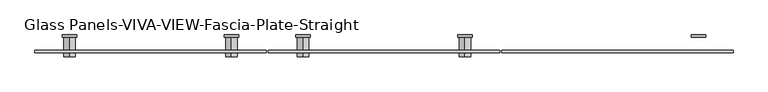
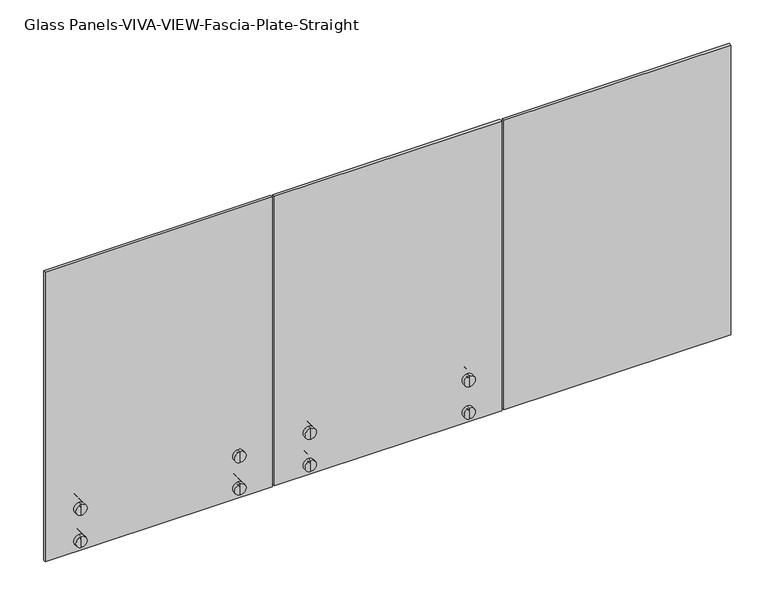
"""IFC4 building model written with IfcOpenShell, lengths in millimetres: railing geometry, Glass Panels-VIVA-VIEW-Fascia-Plate-Straight."""

from ifc_helpers import new_model, si_unit, point, frame, frame_2d, origin, place, context, project, spatial, polyline, circle_curve, trimmed, segment, composite_curve, outline, extrude, source, transform, mapped, element, save
from ifc_brep_helpers import plane_surface, cylinder_surface, advanced_brep


def glass_panels_viva_view_fascia_plate_straight_9ccb37f8(model_context):
    return source(origin(), model_context, "Body", "SolidModel", [
        extrude(outline(composite_curve([segment(polyline([(2971.8, 40645.9596899), (2819.4, 40645.9596899)]), True, "CONTINUOUS"), segment(trimmed(circle_curve(frame_2d((2819.4, 40677.7096899)), 31.75), [point((2819.4, 40645.9596899))], [point((2819.4, 40709.4596899))], False, "CARTESIAN"), True, "CONTINUOUS"), segment(polyline([(2819.4, 40709.4596899), (2971.8, 40709.4596899)]), True, "CONTINUOUS"), segment(trimmed(circle_curve(frame_2d((2971.8, 40677.7096899)), 31.75), [point((2971.8, 40709.4596899))], [point((2971.8, 40645.9596899))], False, "CARTESIAN"), True, "CONTINUOUS")], self_intersect=False)), frame((0.0, -11381.7718115, 0.0), z_axis=(0.0, 1.0, 0.0), x_axis=(0.0, 0.0, 1.0)), (0.0, 0.0, 1.0), 9.525),
        extrude(outline(polyline([(39814.1096899, -11438.9219585), (40830.1096899, -11438.9219585), (40830.1096899, -11451.6219585), (39814.1096899, -11451.6219585), (39814.1096899, -11438.9219585)])), frame((0.0, 0.0, 2768.6), z_axis=(0.0, 0.0, 1.0), x_axis=(1.0, 0.0, 0.0)), (0.0, 0.0, 1.0), 1370.0125),
        advanced_brep(
        [(38940.3496899, -11469.0841646, 2794.0), (38940.3496899, -11469.0841646, 2844.8), (38940.3496899, -11469.0841646, 2819.4), (38940.3496899, -11451.6216646, 2794.0), (38940.3496899, -11451.6216646, 2844.8), (38940.3496899, -11451.6216646, 2813.685), (38940.3496899, -11451.6216646, 2825.115), (38940.3496899, -11438.9216646, 2813.685), (38940.3496899, -11438.9216646, 2825.115), (38940.3496899, -11438.9216646, 2794.0), (38940.3496899, -11438.9216646, 2844.8), (38940.3496899, -11381.7718115, 2794.0), (38940.3496899, -11381.7718115, 2844.8), (38940.3496899, -11381.7718115, 2819.4)],
        [
            (0, 1, circle_curve(frame((38940.3496899, -11469.0841646, 2819.4), z_axis=(0.0, -1.0, 0.0), x_axis=(0.0, 0.0, 1.0)), 25.4)),
            (1, 2),
            (2, 0),
            (1, 0, circle_curve(frame((38940.3496899, -11469.0841646, 2819.4), z_axis=(0.0, -1.0, 0.0), x_axis=(0.0, 0.0, 1.0)), 25.4)),
            (3, 4, circle_curve(frame((38940.3496899, -11451.6216646, 2819.4), z_axis=(0.0, -1.0, 0.0), x_axis=(0.0, 0.0, 1.0)), 25.4)),
            (4, 1),
            (0, 3),
            (4, 3, circle_curve(frame((38940.3496899, -11451.6216646, 2819.4), z_axis=(0.0, -1.0, 0.0), x_axis=(0.0, 0.0, 1.0)), 25.4)),
            (5, 6, circle_curve(frame((38940.3496899, -11451.6216646, 2819.4), z_axis=(0.0, -1.0, 0.0), x_axis=(0.0, 0.0, 1.0)), 5.715)),
            (6, 4),
            (3, 5),
            (6, 5, circle_curve(frame((38940.3496899, -11451.6216646, 2819.4), z_axis=(0.0, -1.0, 0.0), x_axis=(0.0, 0.0, 1.0)), 5.715)),
            (7, 8, circle_curve(frame((38940.3496899, -11438.9216646, 2819.4), z_axis=(0.0, -1.0, 0.0), x_axis=(0.0, 0.0, 1.0)), 5.715)),
            (8, 6),
            (5, 7),
            (8, 7, circle_curve(frame((38940.3496899, -11438.9216646, 2819.4), z_axis=(0.0, -1.0, 0.0), x_axis=(0.0, 0.0, 1.0)), 5.715)),
            (9, 10, circle_curve(frame((38940.3496899, -11438.9216646, 2819.4), z_axis=(0.0, -1.0, 0.0), x_axis=(0.0, 0.0, 1.0)), 25.4)),
            (10, 8),
            (7, 9),
            (10, 9, circle_curve(frame((38940.3496899, -11438.9216646, 2819.4), z_axis=(0.0, -1.0, 0.0), x_axis=(0.0, 0.0, 1.0)), 25.4)),
            (11, 12, circle_curve(frame((38940.3496899, -11381.7718115, 2819.4), z_axis=(0.0, -1.0, 0.0), x_axis=(0.0, 0.0, 1.0)), 25.4)),
            (12, 10),
            (9, 11),
            (12, 11, circle_curve(frame((38940.3496899, -11381.7718115, 2819.4), z_axis=(0.0, -1.0, 0.0), x_axis=(0.0, 0.0, 1.0)), 25.4)),
            (13, 12),
            (11, 13),
        ],
        [
            plane_surface(frame((38940.3496899, -11469.0841646, 2819.4), z_axis=(0.0, -1.0, 0.0), x_axis=(0.0, 0.0, 1.0))),
            cylinder_surface(frame((38940.3496899, -11537.3468115, 2819.4), z_axis=(0.0, 1.0, 0.0), x_axis=(0.0, 0.0, 1.0)), 25.4),
            plane_surface(frame((38940.3496899, -11451.6216646, 2819.4), z_axis=(0.0, 1.0, 0.0), x_axis=(0.0, 0.0, 1.0))),
            cylinder_surface(frame((38940.3496899, -11537.3468115, 2819.4), z_axis=(0.0, 1.0, 0.0), x_axis=(0.0, 0.0, 1.0)), 5.715),
            plane_surface(frame((38940.3496899, -11438.9216646, 2819.4), z_axis=(0.0, -1.0, 0.0), x_axis=(0.0, 0.0, 1.0))),
            plane_surface(frame((38940.3496899, -11381.7718115, 2819.4), z_axis=(0.0, 1.0, 0.0), x_axis=(0.0, 0.0, 1.0))),
        ],
        [
            (0, [[1, 2, 3]]),
            (0, [[4, -3, -2]]),
            (1, [[5, 6, -1, 7]]),
            (1, [[8, -7, -4, -6]]),
            (2, [[9, 10, -5, 11]]),
            (2, [[12, -11, -8, -10]]),
            (3, [[13, 14, -9, 15]]),
            (3, [[16, -15, -12, -14]]),
            (4, [[17, 18, -13, 19]]),
            (4, [[20, -19, -16, -18]]),
            (1, [[21, 22, -17, 23]]),
            (1, [[24, -23, -20, -22]]),
            (5, [[25, -21, 26]]),
            (5, [[-26, -24, -25]]),
        ],
    ),
        advanced_brep(
        [(38940.3496899, -11451.6216646, 2966.085), (38940.3496899, -11451.6216646, 2977.515), (38940.3496899, -11451.6216646, 2997.2), (38940.3496899, -11451.6216646, 2946.4), (38940.3496899, -11438.9216646, 2966.085), (38940.3496899, -11438.9216646, 2977.515), (38940.3496899, -11438.9216646, 2946.4), (38940.3496899, -11438.9216646, 2997.2), (38940.3496899, -11381.7718115, 2946.4), (38940.3496899, -11381.7718115, 2997.2), (38940.3496899, -11381.7718115, 2971.8), (38940.3496899, -11469.0841646, 2946.4), (38940.3496899, -11469.0841646, 2997.2), (38940.3496899, -11469.0841646, 2971.8)],
        [
            (0, 1, circle_curve(frame((38940.3496899, -11451.6216646, 2971.8), z_axis=(0.0, -1.0, 0.0), x_axis=(0.0, 0.0, 1.0)), 5.715)),
            (1, 2),
            (2, 3, circle_curve(frame((38940.3496899, -11451.6216646, 2971.8), z_axis=(0.0, 1.0, 0.0), x_axis=(0.0, 0.0, 1.0)), 25.4)),
            (3, 0),
            (1, 0, circle_curve(frame((38940.3496899, -11451.6216646, 2971.8), z_axis=(0.0, -1.0, 0.0), x_axis=(0.0, 0.0, 1.0)), 5.715)),
            (3, 2, circle_curve(frame((38940.3496899, -11451.6216646, 2971.8), z_axis=(0.0, 1.0, 0.0), x_axis=(0.0, 0.0, 1.0)), 25.4)),
            (4, 5, circle_curve(frame((38940.3496899, -11438.9216646, 2971.8), z_axis=(0.0, -1.0, 0.0), x_axis=(0.0, 0.0, 1.0)), 5.715)),
            (5, 1),
            (0, 4),
            (5, 4, circle_curve(frame((38940.3496899, -11438.9216646, 2971.8), z_axis=(0.0, -1.0, 0.0), x_axis=(0.0, 0.0, 1.0)), 5.715)),
            (6, 7, circle_curve(frame((38940.3496899, -11438.9216646, 2971.8), z_axis=(0.0, -1.0, 0.0), x_axis=(0.0, 0.0, 1.0)), 25.4)),
            (7, 5),
            (4, 6),
            (7, 6, circle_curve(frame((38940.3496899, -11438.9216646, 2971.8), z_axis=(0.0, -1.0, 0.0), x_axis=(0.0, 0.0, 1.0)), 25.4)),
            (8, 9, circle_curve(frame((38940.3496899, -11381.7718115, 2971.8), z_axis=(0.0, -1.0, 0.0), x_axis=(0.0, 0.0, 1.0)), 25.4)),
            (9, 7),
            (6, 8),
            (9, 8, circle_curve(frame((38940.3496899, -11381.7718115, 2971.8), z_axis=(0.0, -1.0, 0.0), x_axis=(0.0, 0.0, 1.0)), 25.4)),
            (10, 9),
            (8, 10),
            (11, 12, circle_curve(frame((38940.3496899, -11469.0841646, 2971.8), z_axis=(0.0, -1.0, 0.0), x_axis=(0.0, 0.0, 1.0)), 25.4)),
            (12, 13),
            (13, 11),
            (12, 11, circle_curve(frame((38940.3496899, -11469.0841646, 2971.8), z_axis=(0.0, -1.0, 0.0), x_axis=(0.0, 0.0, 1.0)), 25.4)),
            (2, 12),
            (11, 3),
        ],
        [
            plane_surface(frame((38940.3496899, -11451.6216646, 2971.8), z_axis=(0.0, 1.0, 0.0), x_axis=(0.0, 0.0, 1.0))),
            cylinder_surface(frame((38940.3496899, -11537.3468115, 2971.8), z_axis=(0.0, 1.0, 0.0), x_axis=(0.0, 0.0, 1.0)), 5.715),
            plane_surface(frame((38940.3496899, -11438.9216646, 2971.8), z_axis=(0.0, -1.0, 0.0), x_axis=(0.0, 0.0, 1.0))),
            cylinder_surface(frame((38940.3496899, -11537.3468115, 2971.8), z_axis=(0.0, 1.0, 0.0), x_axis=(0.0, 0.0, 1.0)), 25.4),
            plane_surface(frame((38940.3496899, -11381.7718115, 2971.8), z_axis=(0.0, 1.0, 0.0), x_axis=(0.0, 0.0, 1.0))),
            plane_surface(frame((38940.3496899, -11469.0841646, 2971.8), z_axis=(0.0, -1.0, 0.0), x_axis=(0.0, 0.0, 1.0))),
        ],
        [
            (0, [[1, 2, 3, 4]]),
            (0, [[5, -4, 6, -2]]),
            (1, [[7, 8, -1, 9]]),
            (1, [[10, -9, -5, -8]]),
            (2, [[11, 12, -7, 13]]),
            (2, [[14, -13, -10, -12]]),
            (3, [[15, 16, -11, 17]]),
            (3, [[18, -17, -14, -16]]),
            (4, [[19, -15, 20]]),
            (4, [[-20, -18, -19]]),
            (5, [[21, 22, 23]]),
            (5, [[24, -23, -22]]),
            (3, [[-3, 25, -21, 26]]),
            (3, [[-6, -26, -24, -25]]),
        ],
    ),
        extrude(outline(composite_curve([segment(polyline([(2971.8, 38908.5996899), (2819.4, 38908.5996899)]), True, "CONTINUOUS"), segment(trimmed(circle_curve(frame_2d((2819.4, 38940.3496899)), 31.75), [point((2819.4, 38908.5996899))], [point((2819.4, 38972.0996899))], False, "CARTESIAN"), True, "CONTINUOUS"), segment(polyline([(2819.4, 38972.0996899), (2971.8, 38972.0996899)]), True, "CONTINUOUS"), segment(trimmed(circle_curve(frame_2d((2971.8, 38940.3496899)), 31.75), [point((2971.8, 38972.0996899))], [point((2971.8, 38908.5996899))], False, "CARTESIAN"), True, "CONTINUOUS")], self_intersect=False)), frame((0.0, -11381.7718115, 0.0), z_axis=(0.0, 1.0, 0.0), x_axis=(0.0, 0.0, 1.0)), (0.0, 0.0, 1.0), 9.525),
        advanced_brep(
        [(39651.5496899, -11469.0841646, 2794.0), (39651.5496899, -11469.0841646, 2844.8), (39651.5496899, -11469.0841646, 2819.4), (39651.5496899, -11451.6216646, 2794.0), (39651.5496899, -11451.6216646, 2844.8), (39651.5496899, -11451.6216646, 2813.685), (39651.5496899, -11451.6216646, 2825.115), (39651.5496899, -11438.9216646, 2813.685), (39651.5496899, -11438.9216646, 2825.115), (39651.5496899, -11438.9216646, 2794.0), (39651.5496899, -11438.9216646, 2844.8), (39651.5496899, -11381.7718115, 2794.0), (39651.5496899, -11381.7718115, 2844.8), (39651.5496899, -11381.7718115, 2819.4)],
        [
            (0, 1, circle_curve(frame((39651.5496899, -11469.0841646, 2819.4), z_axis=(0.0, -1.0, 0.0), x_axis=(0.0, 0.0, 1.0)), 25.4)),
            (1, 2),
            (2, 0),
            (1, 0, circle_curve(frame((39651.5496899, -11469.0841646, 2819.4), z_axis=(0.0, -1.0, 0.0), x_axis=(0.0, 0.0, 1.0)), 25.4)),
            (3, 4, circle_curve(frame((39651.5496899, -11451.6216646, 2819.4), z_axis=(0.0, -1.0, 0.0), x_axis=(0.0, 0.0, 1.0)), 25.4)),
            (4, 1),
            (0, 3),
            (4, 3, circle_curve(frame((39651.5496899, -11451.6216646, 2819.4), z_axis=(0.0, -1.0, 0.0), x_axis=(0.0, 0.0, 1.0)), 25.4)),
            (5, 6, circle_curve(frame((39651.5496899, -11451.6216646, 2819.4), z_axis=(0.0, -1.0, 0.0), x_axis=(0.0, 0.0, 1.0)), 5.715)),
            (6, 4),
            (3, 5),
            (6, 5, circle_curve(frame((39651.5496899, -11451.6216646, 2819.4), z_axis=(0.0, -1.0, 0.0), x_axis=(0.0, 0.0, 1.0)), 5.715)),
            (7, 8, circle_curve(frame((39651.5496899, -11438.9216646, 2819.4), z_axis=(0.0, -1.0, 0.0), x_axis=(0.0, 0.0, 1.0)), 5.715)),
            (8, 6),
            (5, 7),
            (8, 7, circle_curve(frame((39651.5496899, -11438.9216646, 2819.4), z_axis=(0.0, -1.0, 0.0), x_axis=(0.0, 0.0, 1.0)), 5.715)),
            (9, 10, circle_curve(frame((39651.5496899, -11438.9216646, 2819.4), z_axis=(0.0, -1.0, 0.0), x_axis=(0.0, 0.0, 1.0)), 25.4)),
            (10, 8),
            (7, 9),
            (10, 9, circle_curve(frame((39651.5496899, -11438.9216646, 2819.4), z_axis=(0.0, -1.0, 0.0), x_axis=(0.0, 0.0, 1.0)), 25.4)),
            (11, 12, circle_curve(frame((39651.5496899, -11381.7718115, 2819.4), z_axis=(0.0, -1.0, 0.0), x_axis=(0.0, 0.0, 1.0)), 25.4)),
            (12, 10),
            (9, 11),
            (12, 11, circle_curve(frame((39651.5496899, -11381.7718115, 2819.4), z_axis=(0.0, -1.0, 0.0), x_axis=(0.0, 0.0, 1.0)), 25.4)),
            (13, 12),
            (11, 13),
        ],
        [
            plane_surface(frame((39651.5496899, -11469.0841646, 2819.4), z_axis=(0.0, -1.0, 0.0), x_axis=(0.0, 0.0, 1.0))),
            cylinder_surface(frame((39651.5496899, -11537.3468115, 2819.4), z_axis=(0.0, 1.0, 0.0), x_axis=(0.0, 0.0, 1.0)), 25.4),
            plane_surface(frame((39651.5496899, -11451.6216646, 2819.4), z_axis=(0.0, 1.0, 0.0), x_axis=(0.0, 0.0, 1.0))),
            cylinder_surface(frame((39651.5496899, -11537.3468115, 2819.4), z_axis=(0.0, 1.0, 0.0), x_axis=(0.0, 0.0, 1.0)), 5.715),
            plane_surface(frame((39651.5496899, -11438.9216646, 2819.4), z_axis=(0.0, -1.0, 0.0), x_axis=(0.0, 0.0, 1.0))),
            plane_surface(frame((39651.5496899, -11381.7718115, 2819.4), z_axis=(0.0, 1.0, 0.0), x_axis=(0.0, 0.0, 1.0))),
        ],
        [
            (0, [[1, 2, 3]]),
            (0, [[4, -3, -2]]),
            (1, [[5, 6, -1, 7]]),
            (1, [[8, -7, -4, -6]]),
            (2, [[9, 10, -5, 11]]),
            (2, [[12, -11, -8, -10]]),
            (3, [[13, 14, -9, 15]]),
            (3, [[16, -15, -12, -14]]),
            (4, [[17, 18, -13, 19]]),
            (4, [[20, -19, -16, -18]]),
            (1, [[21, 22, -17, 23]]),
            (1, [[24, -23, -20, -22]]),
            (5, [[25, -21, 26]]),
            (5, [[-26, -24, -25]]),
        ],
    ),
        advanced_brep(
        [(39651.5496899, -11451.6216646, 2966.085), (39651.5496899, -11451.6216646, 2977.515), (39651.5496899, -11451.6216646, 2997.2), (39651.5496899, -11451.6216646, 2946.4), (39651.5496899, -11438.9216646, 2966.085), (39651.5496899, -11438.9216646, 2977.515), (39651.5496899, -11438.9216646, 2946.4), (39651.5496899, -11438.9216646, 2997.2), (39651.5496899, -11381.7718115, 2946.4), (39651.5496899, -11381.7718115, 2997.2), (39651.5496899, -11381.7718115, 2971.8), (39651.5496899, -11469.0841646, 2946.4), (39651.5496899, -11469.0841646, 2997.2), (39651.5496899, -11469.0841646, 2971.8)],
        [
            (0, 1, circle_curve(frame((39651.5496899, -11451.6216646, 2971.8), z_axis=(0.0, -1.0, 0.0), x_axis=(0.0, 0.0, 1.0)), 5.715)),
            (1, 2),
            (2, 3, circle_curve(frame((39651.5496899, -11451.6216646, 2971.8), z_axis=(0.0, 1.0, 0.0), x_axis=(0.0, 0.0, 1.0)), 25.4)),
            (3, 0),
            (1, 0, circle_curve(frame((39651.5496899, -11451.6216646, 2971.8), z_axis=(0.0, -1.0, 0.0), x_axis=(0.0, 0.0, 1.0)), 5.715)),
            (3, 2, circle_curve(frame((39651.5496899, -11451.6216646, 2971.8), z_axis=(0.0, 1.0, 0.0), x_axis=(0.0, 0.0, 1.0)), 25.4)),
            (4, 5, circle_curve(frame((39651.5496899, -11438.9216646, 2971.8), z_axis=(0.0, -1.0, 0.0), x_axis=(0.0, 0.0, 1.0)), 5.715)),
            (5, 1),
            (0, 4),
            (5, 4, circle_curve(frame((39651.5496899, -11438.9216646, 2971.8), z_axis=(0.0, -1.0, 0.0), x_axis=(0.0, 0.0, 1.0)), 5.715)),
            (6, 7, circle_curve(frame((39651.5496899, -11438.9216646, 2971.8), z_axis=(0.0, -1.0, 0.0), x_axis=(0.0, 0.0, 1.0)), 25.4)),
            (7, 5),
            (4, 6),
            (7, 6, circle_curve(frame((39651.5496899, -11438.9216646, 2971.8), z_axis=(0.0, -1.0, 0.0), x_axis=(0.0, 0.0, 1.0)), 25.4)),
            (8, 9, circle_curve(frame((39651.5496899, -11381.7718115, 2971.8), z_axis=(0.0, -1.0, 0.0), x_axis=(0.0, 0.0, 1.0)), 25.4)),
            (9, 7),
            (6, 8),
            (9, 8, circle_curve(frame((39651.5496899, -11381.7718115, 2971.8), z_axis=(0.0, -1.0, 0.0), x_axis=(0.0, 0.0, 1.0)), 25.4)),
            (10, 9),
            (8, 10),
            (11, 12, circle_curve(frame((39651.5496899, -11469.0841646, 2971.8), z_axis=(0.0, -1.0, 0.0), x_axis=(0.0, 0.0, 1.0)), 25.4)),
            (12, 13),
            (13, 11),
            (12, 11, circle_curve(frame((39651.5496899, -11469.0841646, 2971.8), z_axis=(0.0, -1.0, 0.0), x_axis=(0.0, 0.0, 1.0)), 25.4)),
            (2, 12),
            (11, 3),
        ],
        [
            plane_surface(frame((39651.5496899, -11451.6216646, 2971.8), z_axis=(0.0, 1.0, 0.0), x_axis=(0.0, 0.0, 1.0))),
            cylinder_surface(frame((39651.5496899, -11537.3468115, 2971.8), z_axis=(0.0, 1.0, 0.0), x_axis=(0.0, 0.0, 1.0)), 5.715),
            plane_surface(frame((39651.5496899, -11438.9216646, 2971.8), z_axis=(0.0, -1.0, 0.0), x_axis=(0.0, 0.0, 1.0))),
            cylinder_surface(frame((39651.5496899, -11537.3468115, 2971.8), z_axis=(0.0, 1.0, 0.0), x_axis=(0.0, 0.0, 1.0)), 25.4),
            plane_surface(frame((39651.5496899, -11381.7718115, 2971.8), z_axis=(0.0, 1.0, 0.0), x_axis=(0.0, 0.0, 1.0))),
            plane_surface(frame((39651.5496899, -11469.0841646, 2971.8), z_axis=(0.0, -1.0, 0.0), x_axis=(0.0, 0.0, 1.0))),
        ],
        [
            (0, [[1, 2, 3, 4]]),
            (0, [[5, -4, 6, -2]]),
            (1, [[7, 8, -1, 9]]),
            (1, [[10, -9, -5, -8]]),
            (2, [[11, 12, -7, 13]]),
            (2, [[14, -13, -10, -12]]),
            (3, [[15, 16, -11, 17]]),
            (3, [[18, -17, -14, -16]]),
            (4, [[19, -15, 20]]),
            (4, [[-20, -18, -19]]),
            (5, [[21, 22, 23]]),
            (5, [[24, -23, -22]]),
            (3, [[-3, 25, -21, 26]]),
            (3, [[-6, -26, -24, -25]]),
        ],
    ),
        extrude(outline(composite_curve([segment(polyline([(2971.8, 39619.7996899), (2819.4, 39619.7996899)]), True, "CONTINUOUS"), segment(trimmed(circle_curve(frame_2d((2819.4, 39651.5496899)), 31.75), [point((2819.4, 39619.7996899))], [point((2819.4, 39683.2996899))], False, "CARTESIAN"), True, "CONTINUOUS"), segment(polyline([(2819.4, 39683.2996899), (2971.8, 39683.2996899)]), True, "CONTINUOUS"), segment(trimmed(circle_curve(frame_2d((2971.8, 39651.5496899)), 31.75), [point((2971.8, 39683.2996899))], [point((2971.8, 39619.7996899))], False, "CARTESIAN"), True, "CONTINUOUS")], self_intersect=False)), frame((0.0, -11381.7718115, 0.0), z_axis=(0.0, 1.0, 0.0), x_axis=(0.0, 0.0, 1.0)), (0.0, 0.0, 1.0), 9.525),
        extrude(outline(polyline([(38787.9496899, -11438.9219585), (39803.9496899, -11438.9219585), (39803.9496899, -11451.6219585), (38787.9496899, -11451.6219585), (38787.9496899, -11438.9219585)])), frame((0.0, 0.0, 2768.6), z_axis=(0.0, 0.0, 1.0), x_axis=(1.0, 0.0, 0.0)), (0.0, 0.0, 1.0), 1370.0125),
        advanced_brep(
        [(37914.1896899, -11469.0841646, 2794.0), (37914.1896899, -11469.0841646, 2844.8), (37914.1896899, -11469.0841646, 2819.4), (37914.1896899, -11451.6216646, 2794.0), (37914.1896899, -11451.6216646, 2844.8), (37914.1896899, -11451.6216646, 2813.685), (37914.1896899, -11451.6216646, 2825.115), (37914.1896899, -11438.9216646, 2813.685), (37914.1896899, -11438.9216646, 2825.115), (37914.1896899, -11438.9216646, 2794.0), (37914.1896899, -11438.9216646, 2844.8), (37914.1896899, -11381.7718115, 2794.0), (37914.1896899, -11381.7718115, 2844.8), (37914.1896899, -11381.7718115, 2819.4)],
        [
            (0, 1, circle_curve(frame((37914.1896899, -11469.0841646, 2819.4), z_axis=(0.0, -1.0, 0.0), x_axis=(0.0, 0.0, 1.0)), 25.4)),
            (1, 2),
            (2, 0),
            (1, 0, circle_curve(frame((37914.1896899, -11469.0841646, 2819.4), z_axis=(0.0, -1.0, 0.0), x_axis=(0.0, 0.0, 1.0)), 25.4)),
            (3, 4, circle_curve(frame((37914.1896899, -11451.6216646, 2819.4), z_axis=(0.0, -1.0, 0.0), x_axis=(0.0, 0.0, 1.0)), 25.4)),
            (4, 1),
            (0, 3),
            (4, 3, circle_curve(frame((37914.1896899, -11451.6216646, 2819.4), z_axis=(0.0, -1.0, 0.0), x_axis=(0.0, 0.0, 1.0)), 25.4)),
            (5, 6, circle_curve(frame((37914.1896899, -11451.6216646, 2819.4), z_axis=(0.0, -1.0, 0.0), x_axis=(0.0, 0.0, 1.0)), 5.715)),
            (6, 4),
            (3, 5),
            (6, 5, circle_curve(frame((37914.1896899, -11451.6216646, 2819.4), z_axis=(0.0, -1.0, 0.0), x_axis=(0.0, 0.0, 1.0)), 5.715)),
            (7, 8, circle_curve(frame((37914.1896899, -11438.9216646, 2819.4), z_axis=(0.0, -1.0, 0.0), x_axis=(0.0, 0.0, 1.0)), 5.715)),
            (8, 6),
            (5, 7),
            (8, 7, circle_curve(frame((37914.1896899, -11438.9216646, 2819.4), z_axis=(0.0, -1.0, 0.0), x_axis=(0.0, 0.0, 1.0)), 5.715)),
            (9, 10, circle_curve(frame((37914.1896899, -11438.9216646, 2819.4), z_axis=(0.0, -1.0, 0.0), x_axis=(0.0, 0.0, 1.0)), 25.4)),
            (10, 8),
            (7, 9),
            (10, 9, circle_curve(frame((37914.1896899, -11438.9216646, 2819.4), z_axis=(0.0, -1.0, 0.0), x_axis=(0.0, 0.0, 1.0)), 25.4)),
            (11, 12, circle_curve(frame((37914.1896899, -11381.7718115, 2819.4), z_axis=(0.0, -1.0, 0.0), x_axis=(0.0, 0.0, 1.0)), 25.4)),
            (12, 10),
            (9, 11),
            (12, 11, circle_curve(frame((37914.1896899, -11381.7718115, 2819.4), z_axis=(0.0, -1.0, 0.0), x_axis=(0.0, 0.0, 1.0)), 25.4)),
            (13, 12),
            (11, 13),
        ],
        [
            plane_surface(frame((37914.1896899, -11469.0841646, 2819.4), z_axis=(0.0, -1.0, 0.0), x_axis=(0.0, 0.0, 1.0))),
            cylinder_surface(frame((37914.1896899, -11537.3468115, 2819.4), z_axis=(0.0, 1.0, 0.0), x_axis=(0.0, 0.0, 1.0)), 25.4),
            plane_surface(frame((37914.1896899, -11451.6216646, 2819.4), z_axis=(0.0, 1.0, 0.0), x_axis=(0.0, 0.0, 1.0))),
            cylinder_surface(frame((37914.1896899, -11537.3468115, 2819.4), z_axis=(0.0, 1.0, 0.0), x_axis=(0.0, 0.0, 1.0)), 5.715),
            plane_surface(frame((37914.1896899, -11438.9216646, 2819.4), z_axis=(0.0, -1.0, 0.0), x_axis=(0.0, 0.0, 1.0))),
            plane_surface(frame((37914.1896899, -11381.7718115, 2819.4), z_axis=(0.0, 1.0, 0.0), x_axis=(0.0, 0.0, 1.0))),
        ],
        [
            (0, [[1, 2, 3]]),
            (0, [[4, -3, -2]]),
            (1, [[5, 6, -1, 7]]),
            (1, [[8, -7, -4, -6]]),
            (2, [[9, 10, -5, 11]]),
            (2, [[12, -11, -8, -10]]),
            (3, [[13, 14, -9, 15]]),
            (3, [[16, -15, -12, -14]]),
            (4, [[17, 18, -13, 19]]),
            (4, [[20, -19, -16, -18]]),
            (1, [[21, 22, -17, 23]]),
            (1, [[24, -23, -20, -22]]),
            (5, [[25, -21, 26]]),
            (5, [[-26, -24, -25]]),
        ],
    ),
        advanced_brep(
        [(37914.1896899, -11451.6216646, 2966.085), (37914.1896899, -11451.6216646, 2977.515), (37914.1896899, -11451.6216646, 2997.2), (37914.1896899, -11451.6216646, 2946.4), (37914.1896899, -11438.9216646, 2966.085), (37914.1896899, -11438.9216646, 2977.515), (37914.1896899, -11438.9216646, 2946.4), (37914.1896899, -11438.9216646, 2997.2), (37914.1896899, -11381.7718115, 2946.4), (37914.1896899, -11381.7718115, 2997.2), (37914.1896899, -11381.7718115, 2971.8), (37914.1896899, -11469.0841646, 2946.4), (37914.1896899, -11469.0841646, 2997.2), (37914.1896899, -11469.0841646, 2971.8)],
        [
            (0, 1, circle_curve(frame((37914.1896899, -11451.6216646, 2971.8), z_axis=(0.0, -1.0, 0.0), x_axis=(0.0, 0.0, 1.0)), 5.715)),
            (1, 2),
            (2, 3, circle_curve(frame((37914.1896899, -11451.6216646, 2971.8), z_axis=(0.0, 1.0, 0.0), x_axis=(0.0, 0.0, 1.0)), 25.4)),
            (3, 0),
            (1, 0, circle_curve(frame((37914.1896899, -11451.6216646, 2971.8), z_axis=(0.0, -1.0, 0.0), x_axis=(0.0, 0.0, 1.0)), 5.715)),
            (3, 2, circle_curve(frame((37914.1896899, -11451.6216646, 2971.8), z_axis=(0.0, 1.0, 0.0), x_axis=(0.0, 0.0, 1.0)), 25.4)),
            (4, 5, circle_curve(frame((37914.1896899, -11438.9216646, 2971.8), z_axis=(0.0, -1.0, 0.0), x_axis=(0.0, 0.0, 1.0)), 5.715)),
            (5, 1),
            (0, 4),
            (5, 4, circle_curve(frame((37914.1896899, -11438.9216646, 2971.8), z_axis=(0.0, -1.0, 0.0), x_axis=(0.0, 0.0, 1.0)), 5.715)),
            (6, 7, circle_curve(frame((37914.1896899, -11438.9216646, 2971.8), z_axis=(0.0, -1.0, 0.0), x_axis=(0.0, 0.0, 1.0)), 25.4)),
            (7, 5),
            (4, 6),
            (7, 6, circle_curve(frame((37914.1896899, -11438.9216646, 2971.8), z_axis=(0.0, -1.0, 0.0), x_axis=(0.0, 0.0, 1.0)), 25.4)),
            (8, 9, circle_curve(frame((37914.1896899, -11381.7718115, 2971.8), z_axis=(0.0, -1.0, 0.0), x_axis=(0.0, 0.0, 1.0)), 25.4)),
            (9, 7),
            (6, 8),
            (9, 8, circle_curve(frame((37914.1896899, -11381.7718115, 2971.8), z_axis=(0.0, -1.0, 0.0), x_axis=(0.0, 0.0, 1.0)), 25.4)),
            (10, 9),
            (8, 10),
            (11, 12, circle_curve(frame((37914.1896899, -11469.0841646, 2971.8), z_axis=(0.0, -1.0, 0.0), x_axis=(0.0, 0.0, 1.0)), 25.4)),
            (12, 13),
            (13, 11),
            (12, 11, circle_curve(frame((37914.1896899, -11469.0841646, 2971.8), z_axis=(0.0, -1.0, 0.0), x_axis=(0.0, 0.0, 1.0)), 25.4)),
            (2, 12),
            (11, 3),
        ],
        [
            plane_surface(frame((37914.1896899, -11451.6216646, 2971.8), z_axis=(0.0, 1.0, 0.0), x_axis=(0.0, 0.0, 1.0))),
            cylinder_surface(frame((37914.1896899, -11537.3468115, 2971.8), z_axis=(0.0, 1.0, 0.0), x_axis=(0.0, 0.0, 1.0)), 5.715),
            plane_surface(frame((37914.1896899, -11438.9216646, 2971.8), z_axis=(0.0, -1.0, 0.0), x_axis=(0.0, 0.0, 1.0))),
            cylinder_surface(frame((37914.1896899, -11537.3468115, 2971.8), z_axis=(0.0, 1.0, 0.0), x_axis=(0.0, 0.0, 1.0)), 25.4),
            plane_surface(frame((37914.1896899, -11381.7718115, 2971.8), z_axis=(0.0, 1.0, 0.0), x_axis=(0.0, 0.0, 1.0))),
            plane_surface(frame((37914.1896899, -11469.0841646, 2971.8), z_axis=(0.0, -1.0, 0.0), x_axis=(0.0, 0.0, 1.0))),
        ],
        [
            (0, [[1, 2, 3, 4]]),
            (0, [[5, -4, 6, -2]]),
            (1, [[7, 8, -1, 9]]),
            (1, [[10, -9, -5, -8]]),
            (2, [[11, 12, -7, 13]]),
            (2, [[14, -13, -10, -12]]),
            (3, [[15, 16, -11, 17]]),
            (3, [[18, -17, -14, -16]]),
            (4, [[19, -15, 20]]),
            (4, [[-20, -18, -19]]),
            (5, [[21, 22, 23]]),
            (5, [[24, -23, -22]]),
            (3, [[-3, 25, -21, 26]]),
            (3, [[-6, -26, -24, -25]]),
        ],
    ),
        extrude(outline(composite_curve([segment(polyline([(2971.8, 37882.4396899), (2819.4, 37882.4396899)]), True, "CONTINUOUS"), segment(trimmed(circle_curve(frame_2d((2819.4, 37914.1896899)), 31.75), [point((2819.4, 37882.4396899))], [point((2819.4, 37945.9396899))], False, "CARTESIAN"), True, "CONTINUOUS"), segment(polyline([(2819.4, 37945.9396899), (2971.8, 37945.9396899)]), True, "CONTINUOUS"), segment(trimmed(circle_curve(frame_2d((2971.8, 37914.1896899)), 31.75), [point((2971.8, 37945.9396899))], [point((2971.8, 37882.4396899))], False, "CARTESIAN"), True, "CONTINUOUS")], self_intersect=False)), frame((0.0, -11381.7718115, 0.0), z_axis=(0.0, 1.0, 0.0), x_axis=(0.0, 0.0, 1.0)), (0.0, 0.0, 1.0), 9.525),
        advanced_brep(
        [(38625.3896899, -11469.0841646, 2794.0), (38625.3896899, -11469.0841646, 2844.8), (38625.3896899, -11469.0841646, 2819.4), (38625.3896899, -11451.6216646, 2794.0), (38625.3896899, -11451.6216646, 2844.8), (38625.3896899, -11451.6216646, 2813.685), (38625.3896899, -11451.6216646, 2825.115), (38625.3896899, -11438.9216646, 2813.685), (38625.3896899, -11438.9216646, 2825.115), (38625.3896899, -11438.9216646, 2794.0), (38625.3896899, -11438.9216646, 2844.8), (38625.3896899, -11381.7718115, 2794.0), (38625.3896899, -11381.7718115, 2844.8), (38625.3896899, -11381.7718115, 2819.4)],
        [
            (0, 1, circle_curve(frame((38625.3896899, -11469.0841646, 2819.4), z_axis=(0.0, -1.0, 0.0), x_axis=(0.0, 0.0, 1.0)), 25.4)),
            (1, 2),
            (2, 0),
            (1, 0, circle_curve(frame((38625.3896899, -11469.0841646, 2819.4), z_axis=(0.0, -1.0, 0.0), x_axis=(0.0, 0.0, 1.0)), 25.4)),
            (3, 4, circle_curve(frame((38625.3896899, -11451.6216646, 2819.4), z_axis=(0.0, -1.0, 0.0), x_axis=(0.0, 0.0, 1.0)), 25.4)),
            (4, 1),
            (0, 3),
            (4, 3, circle_curve(frame((38625.3896899, -11451.6216646, 2819.4), z_axis=(0.0, -1.0, 0.0), x_axis=(0.0, 0.0, 1.0)), 25.4)),
            (5, 6, circle_curve(frame((38625.3896899, -11451.6216646, 2819.4), z_axis=(0.0, -1.0, 0.0), x_axis=(0.0, 0.0, 1.0)), 5.715)),
            (6, 4),
            (3, 5),
            (6, 5, circle_curve(frame((38625.3896899, -11451.6216646, 2819.4), z_axis=(0.0, -1.0, 0.0), x_axis=(0.0, 0.0, 1.0)), 5.715)),
            (7, 8, circle_curve(frame((38625.3896899, -11438.9216646, 2819.4), z_axis=(0.0, -1.0, 0.0), x_axis=(0.0, 0.0, 1.0)), 5.715)),
            (8, 6),
            (5, 7),
            (8, 7, circle_curve(frame((38625.3896899, -11438.9216646, 2819.4), z_axis=(0.0, -1.0, 0.0), x_axis=(0.0, 0.0, 1.0)), 5.715)),
            (9, 10, circle_curve(frame((38625.3896899, -11438.9216646, 2819.4), z_axis=(0.0, -1.0, 0.0), x_axis=(0.0, 0.0, 1.0)), 25.4)),
            (10, 8),
            (7, 9),
            (10, 9, circle_curve(frame((38625.3896899, -11438.9216646, 2819.4), z_axis=(0.0, -1.0, 0.0), x_axis=(0.0, 0.0, 1.0)), 25.4)),
            (11, 12, circle_curve(frame((38625.3896899, -11381.7718115, 2819.4), z_axis=(0.0, -1.0, 0.0), x_axis=(0.0, 0.0, 1.0)), 25.4)),
            (12, 10),
            (9, 11),
            (12, 11, circle_curve(frame((38625.3896899, -11381.7718115, 2819.4), z_axis=(0.0, -1.0, 0.0), x_axis=(0.0, 0.0, 1.0)), 25.4)),
            (13, 12),
            (11, 13),
        ],
        [
            plane_surface(frame((38625.3896899, -11469.0841646, 2819.4), z_axis=(0.0, -1.0, 0.0), x_axis=(0.0, 0.0, 1.0))),
            cylinder_surface(frame((38625.3896899, -11537.3468115, 2819.4), z_axis=(0.0, 1.0, 0.0), x_axis=(0.0, 0.0, 1.0)), 25.4),
            plane_surface(frame((38625.3896899, -11451.6216646, 2819.4), z_axis=(0.0, 1.0, 0.0), x_axis=(0.0, 0.0, 1.0))),
            cylinder_surface(frame((38625.3896899, -11537.3468115, 2819.4), z_axis=(0.0, 1.0, 0.0), x_axis=(0.0, 0.0, 1.0)), 5.715),
            plane_surface(frame((38625.3896899, -11438.9216646, 2819.4), z_axis=(0.0, -1.0, 0.0), x_axis=(0.0, 0.0, 1.0))),
            plane_surface(frame((38625.3896899, -11381.7718115, 2819.4), z_axis=(0.0, 1.0, 0.0), x_axis=(0.0, 0.0, 1.0))),
        ],
        [
            (0, [[1, 2, 3]]),
            (0, [[4, -3, -2]]),
            (1, [[5, 6, -1, 7]]),
            (1, [[8, -7, -4, -6]]),
            (2, [[9, 10, -5, 11]]),
            (2, [[12, -11, -8, -10]]),
            (3, [[13, 14, -9, 15]]),
            (3, [[16, -15, -12, -14]]),
            (4, [[17, 18, -13, 19]]),
            (4, [[20, -19, -16, -18]]),
            (1, [[21, 22, -17, 23]]),
            (1, [[24, -23, -20, -22]]),
            (5, [[25, -21, 26]]),
            (5, [[-26, -24, -25]]),
        ],
    ),
        advanced_brep(
        [(38625.3896899, -11451.6216646, 2966.085), (38625.3896899, -11451.6216646, 2977.515), (38625.3896899, -11451.6216646, 2997.2), (38625.3896899, -11451.6216646, 2946.4), (38625.3896899, -11438.9216646, 2966.085), (38625.3896899, -11438.9216646, 2977.515), (38625.3896899, -11438.9216646, 2946.4), (38625.3896899, -11438.9216646, 2997.2), (38625.3896899, -11381.7718115, 2946.4), (38625.3896899, -11381.7718115, 2997.2), (38625.3896899, -11381.7718115, 2971.8), (38625.3896899, -11469.0841646, 2946.4), (38625.3896899, -11469.0841646, 2997.2), (38625.3896899, -11469.0841646, 2971.8)],
        [
            (0, 1, circle_curve(frame((38625.3896899, -11451.6216646, 2971.8), z_axis=(0.0, -1.0, 0.0), x_axis=(0.0, 0.0, 1.0)), 5.715)),
            (1, 2),
            (2, 3, circle_curve(frame((38625.3896899, -11451.6216646, 2971.8), z_axis=(0.0, 1.0, 0.0), x_axis=(0.0, 0.0, 1.0)), 25.4)),
            (3, 0),
            (1, 0, circle_curve(frame((38625.3896899, -11451.6216646, 2971.8), z_axis=(0.0, -1.0, 0.0), x_axis=(0.0, 0.0, 1.0)), 5.715)),
            (3, 2, circle_curve(frame((38625.3896899, -11451.6216646, 2971.8), z_axis=(0.0, 1.0, 0.0), x_axis=(0.0, 0.0, 1.0)), 25.4)),
            (4, 5, circle_curve(frame((38625.3896899, -11438.9216646, 2971.8), z_axis=(0.0, -1.0, 0.0), x_axis=(0.0, 0.0, 1.0)), 5.715)),
            (5, 1),
            (0, 4),
            (5, 4, circle_curve(frame((38625.3896899, -11438.9216646, 2971.8), z_axis=(0.0, -1.0, 0.0), x_axis=(0.0, 0.0, 1.0)), 5.715)),
            (6, 7, circle_curve(frame((38625.3896899, -11438.9216646, 2971.8), z_axis=(0.0, -1.0, 0.0), x_axis=(0.0, 0.0, 1.0)), 25.4)),
            (7, 5),
            (4, 6),
            (7, 6, circle_curve(frame((38625.3896899, -11438.9216646, 2971.8), z_axis=(0.0, -1.0, 0.0), x_axis=(0.0, 0.0, 1.0)), 25.4)),
            (8, 9, circle_curve(frame((38625.3896899, -11381.7718115, 2971.8), z_axis=(0.0, -1.0, 0.0), x_axis=(0.0, 0.0, 1.0)), 25.4)),
            (9, 7),
            (6, 8),
            (9, 8, circle_curve(frame((38625.3896899, -11381.7718115, 2971.8), z_axis=(0.0, -1.0, 0.0), x_axis=(0.0, 0.0, 1.0)), 25.4)),
            (10, 9),
            (8, 10),
            (11, 12, circle_curve(frame((38625.3896899, -11469.0841646, 2971.8), z_axis=(0.0, -1.0, 0.0), x_axis=(0.0, 0.0, 1.0)), 25.4)),
            (12, 13),
            (13, 11),
            (12, 11, circle_curve(frame((38625.3896899, -11469.0841646, 2971.8), z_axis=(0.0, -1.0, 0.0), x_axis=(0.0, 0.0, 1.0)), 25.4)),
            (2, 12),
            (11, 3),
        ],
        [
            plane_surface(frame((38625.3896899, -11451.6216646, 2971.8), z_axis=(0.0, 1.0, 0.0), x_axis=(0.0, 0.0, 1.0))),
            cylinder_surface(frame((38625.3896899, -11537.3468115, 2971.8), z_axis=(0.0, 1.0, 0.0), x_axis=(0.0, 0.0, 1.0)), 5.715),
            plane_surface(frame((38625.3896899, -11438.9216646, 2971.8), z_axis=(0.0, -1.0, 0.0), x_axis=(0.0, 0.0, 1.0))),
            cylinder_surface(frame((38625.3896899, -11537.3468115, 2971.8), z_axis=(0.0, 1.0, 0.0), x_axis=(0.0, 0.0, 1.0)), 25.4),
            plane_surface(frame((38625.3896899, -11381.7718115, 2971.8), z_axis=(0.0, 1.0, 0.0), x_axis=(0.0, 0.0, 1.0))),
            plane_surface(frame((38625.3896899, -11469.0841646, 2971.8), z_axis=(0.0, -1.0, 0.0), x_axis=(0.0, 0.0, 1.0))),
        ],
        [
            (0, [[1, 2, 3, 4]]),
            (0, [[5, -4, 6, -2]]),
            (1, [[7, 8, -1, 9]]),
            (1, [[10, -9, -5, -8]]),
            (2, [[11, 12, -7, 13]]),
            (2, [[14, -13, -10, -12]]),
            (3, [[15, 16, -11, 17]]),
            (3, [[18, -17, -14, -16]]),
            (4, [[19, -15, 20]]),
            (4, [[-20, -18, -19]]),
            (5, [[21, 22, 23]]),
            (5, [[24, -23, -22]]),
            (3, [[-3, 25, -21, 26]]),
            (3, [[-6, -26, -24, -25]]),
        ],
    ),
        extrude(outline(composite_curve([segment(polyline([(2971.8, 38593.6396899), (2819.4, 38593.6396899)]), True, "CONTINUOUS"), segment(trimmed(circle_curve(frame_2d((2819.4, 38625.3896899)), 31.75), [point((2819.4, 38593.6396899))], [point((2819.4, 38657.1396899))], False, "CARTESIAN"), True, "CONTINUOUS"), segment(polyline([(2819.4, 38657.1396899), (2971.8, 38657.1396899)]), True, "CONTINUOUS"), segment(trimmed(circle_curve(frame_2d((2971.8, 38625.3896899)), 31.75), [point((2971.8, 38657.1396899))], [point((2971.8, 38593.6396899))], False, "CARTESIAN"), True, "CONTINUOUS")], self_intersect=False)), frame((0.0, -11381.7718115, 0.0), z_axis=(0.0, 1.0, 0.0), x_axis=(0.0, 0.0, 1.0)), (0.0, 0.0, 1.0), 9.525),
        extrude(outline(polyline([(37761.7896899, -11438.9219585), (38777.7896899, -11438.9219585), (38777.7896899, -11451.6219585), (37761.7896899, -11451.6219585), (37761.7896899, -11438.9219585)])), frame((0.0, 0.0, 2768.6), z_axis=(0.0, 0.0, 1.0), x_axis=(1.0, 0.0, 0.0)), (0.0, 0.0, 1.0), 1370.0125),
    ])


if __name__ == "__main__":
    model = new_model("IFC4")
    model_context = context("Model", 3, world=origin())
    ifc_project = project(units=[si_unit("LENGTHUNIT", "METRE", prefix="MILLI")], contexts=[model_context])
    site = spatial("IfcSite", under=ifc_project)
    building = spatial("IfcBuilding", under=site)
    placement = place(None, origin())
    glass_panels_viva_view_fascia_plate_straight_shape = glass_panels_viva_view_fascia_plate_straight_9ccb37f8(model_context)
    element("IfcRailing", 1, ObjectType="Glass Panels-VIVA-VIEW-Fascia-Plate-Straight", at=placement, inside=building, context=model_context, shape_type="MappedRepresentation", body=[
        mapped(glass_panels_viva_view_fascia_plate_straight_shape, transform((0.0, 0.0, 0.0), x_axis=(1.0, 0.0, 0.0), y_axis=(0.0, 1.0, 0.0), z_axis=(0.0, 0.0, 1.0))),
    ])
    save(model, "model.ifc")
